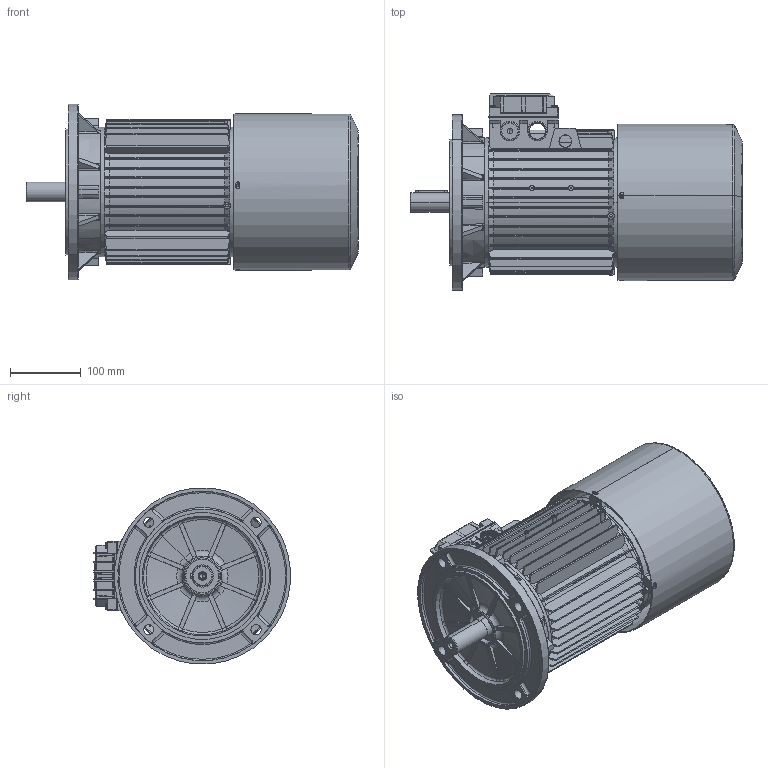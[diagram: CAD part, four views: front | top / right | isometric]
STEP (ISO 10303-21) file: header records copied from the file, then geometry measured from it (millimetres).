
FILE_DESCRIPTION (( 'STEP AP214' ), '1' );
FILE_NAME ('M25HB0011.STEP', '2019-04-04T15:46:00', ( '' ), ( '' ), 'SwSTEP 2.0', 'SolidWorks 2018', '' );
FILE_SCHEMA (( 'AUTOMOTIVE_DESIGN' ));
Length unit declared in the file: millimetre
Products named in the file (11): Guarnizione Coperchio Semplice Scatola BA 90 100 112 - DDAL0094; Vite per coperchio morsettiera; Coperchio per Scatola Singola 90 - 100 - 112; Chiavetta 100-112; Albero SM 112; Scudo a flangia B5 Fi 250 BA-BM 112; Carcassa 112 B5; M25HB0011; Cuffia BM 112; Scudo Lato Freno P1 BM 112 - DFAN0101; Coperchio per Scatola Singola 90 - 100 - 112 con viti
Assembly tree (13 placements, depth 3):
  M25HB0011
    Carcassa 112 B5
    Scudo a flangia B5 Fi 250 BA-BM 112
    Albero SM 112
    Chiavetta 100-112
    Coperchio per Scatola Singola 90 - 100 - 112 con viti
      Coperchio per Scatola Singola 90 - 100 - 112
      Vite per coperchio morsettiera  x4
      Guarnizione Coperchio Semplice Scatola BA 90 100 112 - DDAL0094
    Scudo Lato Freno P1 BM 112 - DFAN0101
    Cuffia BM 112
Bounding box: 470.25 x 278.52 x 249.05 mm (x, y, z)
Volume: 2156388.2 mm3; surface area: 1149068.4 mm2
Topology: 12 solids, 12 shells, 3126 faces, 8731 edges, 5607 vertices
Faces by surface type: cylinder 1206, plane 1185, torus 308, cone 260, bspline 167
Entity records: 111132 total; most frequent: CARTESIAN_POINT 34248, ORIENTED_EDGE 16538, DIRECTION 15001, EDGE_CURVE 8269, AXIS2_PLACEMENT_3D 5534, VERTEX_POINT 5373, LINE 3933, VECTOR 3933
